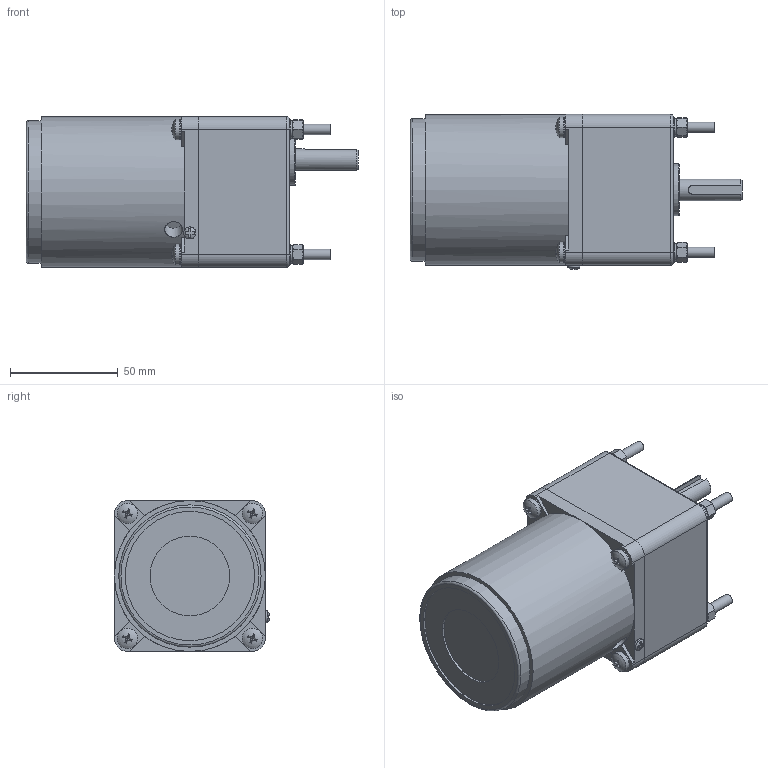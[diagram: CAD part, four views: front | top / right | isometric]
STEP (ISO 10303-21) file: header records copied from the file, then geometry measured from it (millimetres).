
FILE_DESCRIPTION(/* description */ (''),/* implementation_level */ '2;1');
FILE_NAME(/* name */ '70高箱T-15W普通.stp',/* time_stamp */ '2022-10-31T09:22:01+08:00',/* author */ (''),/* organization */ (''),/* preprocessor_version */ 'ST-DEVELOPER v16.7',/* originating_system */ 'SIEMENS PLM Software NX 1899',/* authorisation */ '');
FILE_SCHEMA (('AP203_CONFIGURATION_CONTROLLED_3D_DESIGN_OF_MECHANICAL_PARTS_AND_ASSEMBLIES_MIM_LF { 1 0 10303 403 2 1 2}'));
Length unit declared in the file: millimetre
Products named in the file (1): yf186188FEB6lc7n
Bounding box: 154 x 71.94 x 70 mm (x, y, z)
Volume: 515223.6 mm3; surface area: 62386.9 mm2
Topology: 22 solids, 23 shells, 389 faces, 908 edges, 584 vertices
Faces by surface type: plane 156, bspline 80, cylinder 74, cone 63, torus 11, sphere 5
Full cylindrical faces by diameter (mm): 2.7 x1, 4.351 x4, 4.826 x4, 5 x4, 5.3 x8, 5.6 x1, 6 x9, 8.3 x1, 9 x8, 9.5 x4, 10 x1, 24 x1, 37 x1, 60 x1, 63 x1, 66 x1, 66.6 x2, 70 x1
Entity records: 12285 total; most frequent: CARTESIAN_POINT 3263, ORIENTED_EDGE 1604, DIRECTION 1393, EDGE_CURVE 802, AXIS2_PLACEMENT_3D 601, VERTEX_POINT 556, EDGE_LOOP 525, ADVANCED_FACE 389
